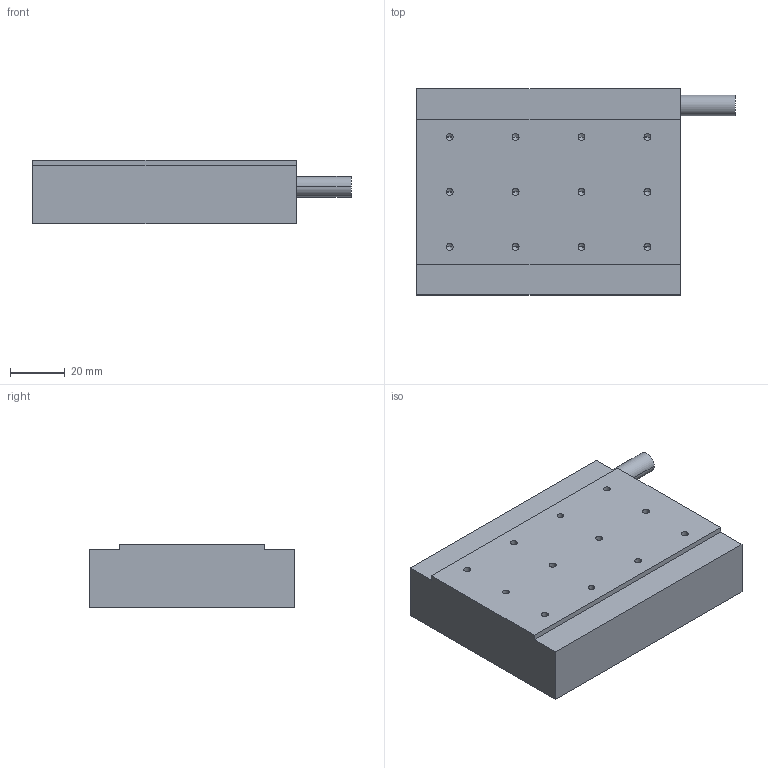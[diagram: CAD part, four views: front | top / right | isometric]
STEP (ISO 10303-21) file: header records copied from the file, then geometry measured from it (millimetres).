
FILE_DESCRIPTION (( 'STEP AP214' ), '1' );
FILE_NAME ('B-CJM050B-02.STEP', '2025-09-05T09:23:25', ( '' ), ( '' ), 'SwSTEP 2.0', 'SolidWorks 2016', '' );
FILE_SCHEMA (( 'AUTOMOTIVE_DESIGN' ));
Length unit declared in the file: millimetre
Products named in the file (1): B-CJM050B-02
Bounding box: 116 x 75 x 23.2 mm (x, y, z)
Volume: 163214.3 mm3; surface area: 23503.6 mm2
Topology: 1 solids, 1 shells, 85 faces, 206 edges, 108 vertices
Faces by surface type: cone 40, cylinder 34, plane 11
Entity records: 2574 total; most frequent: DIRECTION 422, CARTESIAN_POINT 368, ORIENTED_EDGE 348, EDGE_CURVE 174, AXIS2_PLACEMENT_3D 162, VERTEX_POINT 108, EDGE_LOOP 102, VECTOR 98
